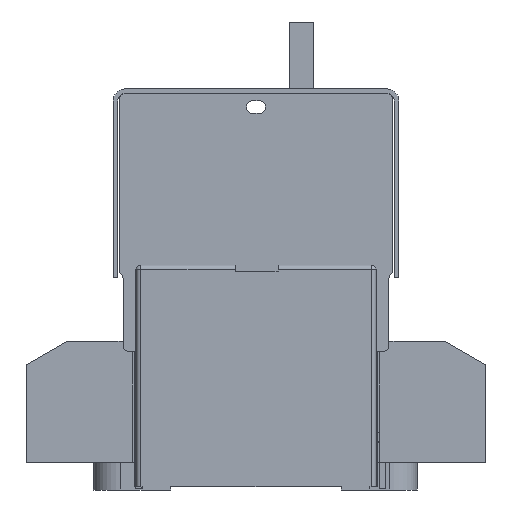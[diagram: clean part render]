
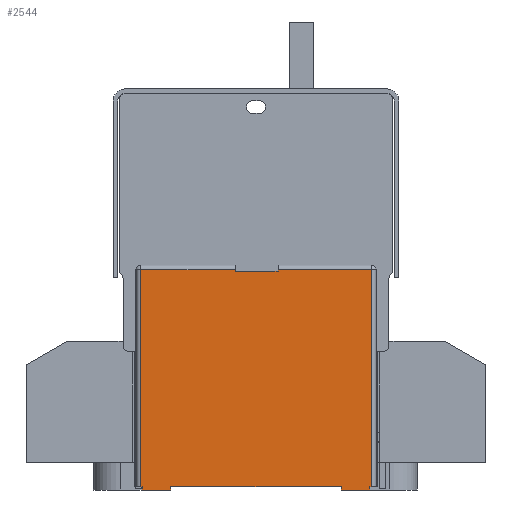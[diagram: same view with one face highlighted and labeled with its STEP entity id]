
A CAD part, left-side view. The second image highlights one B-rep face of the part: STEP entity #2544.
In plain terms, the highlighted planar face has unit normal (-1, 0, 0).
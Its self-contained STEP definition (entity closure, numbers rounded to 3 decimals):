
#2544=ADVANCED_FACE('',(#4397),#3326,.F.);
#3326=PLANE('',#24694);
#4397=FACE_OUTER_BOUND('',#5724,.T.);
#5724=EDGE_LOOP('',(#11756,#11757,#11758,#11759,#11760,#11761,#11762,#11763,
#11764,#11765,#11766,#11767,#11768,#11769,#11770,#11771));
#11756=ORIENTED_EDGE('',*,*,#17768,.F.);
#11757=ORIENTED_EDGE('',*,*,#17561,.T.);
#11758=ORIENTED_EDGE('',*,*,#17385,.T.);
#11759=ORIENTED_EDGE('',*,*,#17770,.F.);
#11760=ORIENTED_EDGE('',*,*,#17388,.T.);
#11761=ORIENTED_EDGE('',*,*,#17521,.T.);
#11762=ORIENTED_EDGE('',*,*,#17771,.T.);
#11763=ORIENTED_EDGE('',*,*,#17772,.T.);
#11764=ORIENTED_EDGE('',*,*,#17773,.F.);
#11765=ORIENTED_EDGE('',*,*,#17602,.F.);
#11766=ORIENTED_EDGE('',*,*,#17607,.T.);
#11767=ORIENTED_EDGE('',*,*,#17774,.T.);
#11768=ORIENTED_EDGE('',*,*,#17615,.F.);
#11769=ORIENTED_EDGE('',*,*,#17609,.F.);
#11770=ORIENTED_EDGE('',*,*,#17775,.T.);
#11771=ORIENTED_EDGE('',*,*,#17776,.T.);
#14321=VERTEX_POINT('',#36902);
#14322=VERTEX_POINT('',#36904);
#14324=VERTEX_POINT('',#36910);
#14325=VERTEX_POINT('',#36911);
#14413=VERTEX_POINT('',#37216);
#14414=VERTEX_POINT('',#37220);
#14454=VERTEX_POINT('',#37385);
#14455=VERTEX_POINT('',#37386);
#14459=VERTEX_POINT('',#37395);
#14460=VERTEX_POINT('',#37400);
#14461=VERTEX_POINT('',#37401);
#14464=VERTEX_POINT('',#37409);
#14559=VERTEX_POINT('',#37704);
#14560=VERTEX_POINT('',#37709);
#14561=VERTEX_POINT('',#37711);
#14562=VERTEX_POINT('',#37715);
#17385=EDGE_CURVE('',#14322,#14321,#20012,.T.);
#17388=EDGE_CURVE('',#14324,#14325,#20014,.T.);
#17521=EDGE_CURVE('',#14325,#14414,#20084,.T.);
#17561=EDGE_CURVE('',#14413,#14322,#20100,.T.);
#17602=EDGE_CURVE('',#14454,#14455,#20135,.T.);
#17607=EDGE_CURVE('',#14454,#14459,#20140,.T.);
#17609=EDGE_CURVE('',#14460,#14461,#20142,.T.);
#17615=EDGE_CURVE('',#14461,#14464,#20148,.T.);
#17768=EDGE_CURVE('',#14413,#14559,#20287,.T.);
#17770=EDGE_CURVE('',#14324,#14321,#20288,.T.);
#17771=EDGE_CURVE('',#14414,#14560,#20289,.T.);
#17772=EDGE_CURVE('',#14560,#14561,#20290,.T.);
#17773=EDGE_CURVE('',#14455,#14561,#20291,.T.);
#17774=EDGE_CURVE('',#14459,#14464,#20292,.T.);
#17775=EDGE_CURVE('',#14460,#14562,#20293,.T.);
#17776=EDGE_CURVE('',#14562,#14559,#20294,.T.);
#20012=LINE('',#36903,#22516);
#20014=LINE('',#36909,#22518);
#20084=LINE('',#37221,#22588);
#20100=LINE('',#37301,#22604);
#20135=LINE('',#37384,#22639);
#20140=LINE('',#37396,#22644);
#20142=LINE('',#37399,#22646);
#20148=LINE('',#37412,#22652);
#20287=LINE('',#37703,#22791);
#20288=LINE('',#37707,#22792);
#20289=LINE('',#37708,#22793);
#20290=LINE('',#37710,#22794);
#20291=LINE('',#37712,#22795);
#20292=LINE('',#37713,#22796);
#20293=LINE('',#37714,#22797);
#20294=LINE('',#37716,#22798);
#22516=VECTOR('',#29942,1.);
#22518=VECTOR('',#29948,1.);
#22588=VECTOR('',#30236,1.);
#22604=VECTOR('',#30348,1.);
#22639=VECTOR('',#30433,1.);
#22644=VECTOR('',#30440,1.);
#22646=VECTOR('',#30444,1.);
#22652=VECTOR('',#30452,1.);
#22791=VECTOR('',#30709,1.);
#22792=VECTOR('',#30714,1.);
#22793=VECTOR('',#30715,1.);
#22794=VECTOR('',#30716,1.);
#22795=VECTOR('',#30717,1.);
#22796=VECTOR('',#30718,1.);
#22797=VECTOR('',#30719,1.);
#22798=VECTOR('',#30720,1.);
#24694=AXIS2_PLACEMENT_3D('',#37717,#30721,#30722);
#29942=DIRECTION('',(0.,0.,-1.));
#29948=DIRECTION('',(0.,0.,1.));
#30236=DIRECTION('',(0.,1.,0.));
#30348=DIRECTION('',(0.,1.,0.));
#30433=DIRECTION('',(0.,1.,0.));
#30440=DIRECTION('',(0.,0.,1.));
#30444=DIRECTION('',(0.,1.,0.));
#30452=DIRECTION('',(0.,0.,1.));
#30709=DIRECTION('',(0.,0.,-1.));
#30714=DIRECTION('',(0.,-1.,0.));
#30715=DIRECTION('',(0.,0.,-1.));
#30716=DIRECTION('',(0.,-1.,0.));
#30717=DIRECTION('',(0.,0.,1.));
#30718=DIRECTION('',(0.,-1.,0.));
#30719=DIRECTION('',(0.,0.,1.));
#30720=DIRECTION('',(0.,-1.,0.));
#30721=DIRECTION('',(1.,0.,0.));
#30722=DIRECTION('',(0.,0.,-1.));
#36902=CARTESIAN_POINT('',(-69.,-31.985,67.));
#36903=CARTESIAN_POINT('',(-69.,-31.985,69.1));
#36904=CARTESIAN_POINT('',(-69.,-31.985,67.6));
#36909=CARTESIAN_POINT('',(-69.,-17.985,69.1));
#36910=CARTESIAN_POINT('',(-69.,-17.985,67.));
#36911=CARTESIAN_POINT('',(-69.,-17.985,67.6));
#37216=CARTESIAN_POINT('',(-69.,-62.735,67.6));
#37220=CARTESIAN_POINT('',(-69.,13.265,67.6));
#37221=CARTESIAN_POINT('',(-69.,13.265,67.6));
#37301=CARTESIAN_POINT('',(-69.,13.265,67.6));
#37384=CARTESIAN_POINT('',(-69.,3.265,-4.9));
#37385=CARTESIAN_POINT('',(-69.,3.265,-4.9));
#37386=CARTESIAN_POINT('',(-69.,12.765,-4.9));
#37395=CARTESIAN_POINT('',(-69.,3.265,-3.9));
#37396=CARTESIAN_POINT('',(-69.,3.265,-5.9));
#37399=CARTESIAN_POINT('',(-69.,-62.235,-4.9));
#37400=CARTESIAN_POINT('',(-69.,-62.235,-4.9));
#37401=CARTESIAN_POINT('',(-69.,-52.735,-4.9));
#37409=CARTESIAN_POINT('',(-69.,-52.735,-3.9));
#37412=CARTESIAN_POINT('',(-69.,-52.735,-5.9));
#37703=CARTESIAN_POINT('',(-69.,-62.735,69.1));
#37704=CARTESIAN_POINT('',(-69.,-62.735,-3.9));
#37707=CARTESIAN_POINT('',(-69.,12.765,67.));
#37708=CARTESIAN_POINT('',(-69.,13.265,69.1));
#37709=CARTESIAN_POINT('',(-69.,13.265,-3.9));
#37710=CARTESIAN_POINT('',(-69.,-62.235,-3.9));
#37711=CARTESIAN_POINT('',(-69.,12.765,-3.9));
#37712=CARTESIAN_POINT('',(-69.,12.765,-5.9));
#37713=CARTESIAN_POINT('',(-69.,-62.235,-3.9));
#37714=CARTESIAN_POINT('',(-69.,-62.235,-5.9));
#37715=CARTESIAN_POINT('',(-69.,-62.235,-3.9));
#37716=CARTESIAN_POINT('',(-69.,-62.235,-3.9));
#37717=CARTESIAN_POINT('',(-69.,-62.235,69.1));
